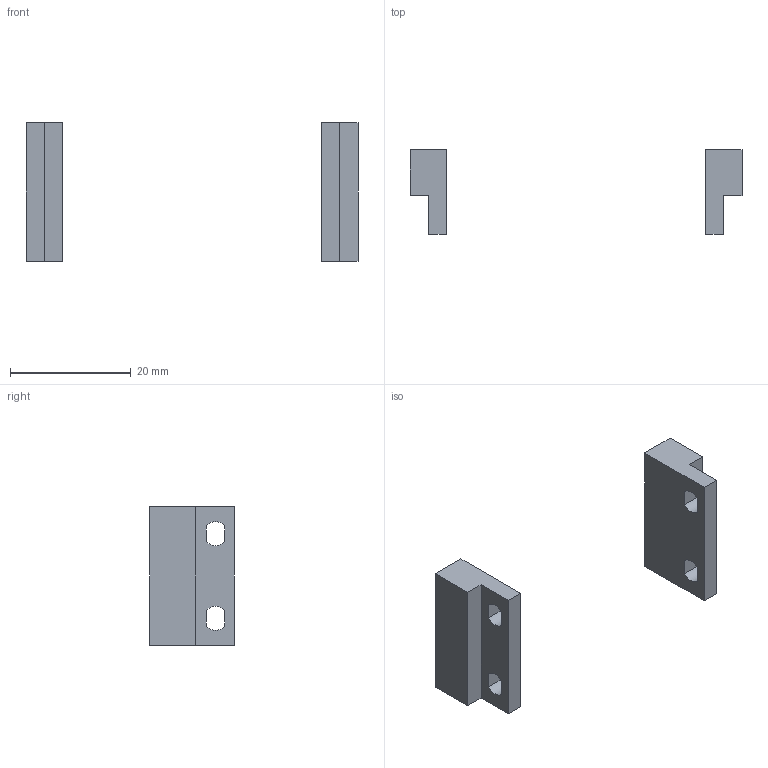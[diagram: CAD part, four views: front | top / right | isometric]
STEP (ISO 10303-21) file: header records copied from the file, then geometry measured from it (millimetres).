
FILE_DESCRIPTION(/* description */ (''),/* implementation_level */ '2;1');
FILE_NAME(/* name */ '7.x-cart#7.8#la-lsp-2',/* time_stamp */ '2014-12-01T20:17:48+01:00',/* author */ (''),/* organization */ (''),/* preprocessor_version */ 'ST-DEVELOPER v14',/* originating_system */ '',/* authorisation */ '');
FILE_SCHEMA (('AUTOMOTIVE_DESIGN'));
Length unit declared in the file: millimetre
Products named in the file (1): Document
Bounding box: 55 x 14 x 23 mm (x, y, z)
Volume: 2826.6 mm3; surface area: 2150.7 mm2
Topology: 2 solids, 2 shells, 32 faces, 84 edges, 56 vertices
Faces by surface type: plane 16, bspline 16
Entity records: 2047 total; most frequent: CARTESIAN_POINT 910, B_SPLINE_CURVE_WITH_KNOTS 204, ORIENTED_EDGE 168, PCURVE 168, DEFINITIONAL_REPRESENTATION 168, SURFACE_CURVE 84, EDGE_CURVE 84, VERTEX_POINT 56
